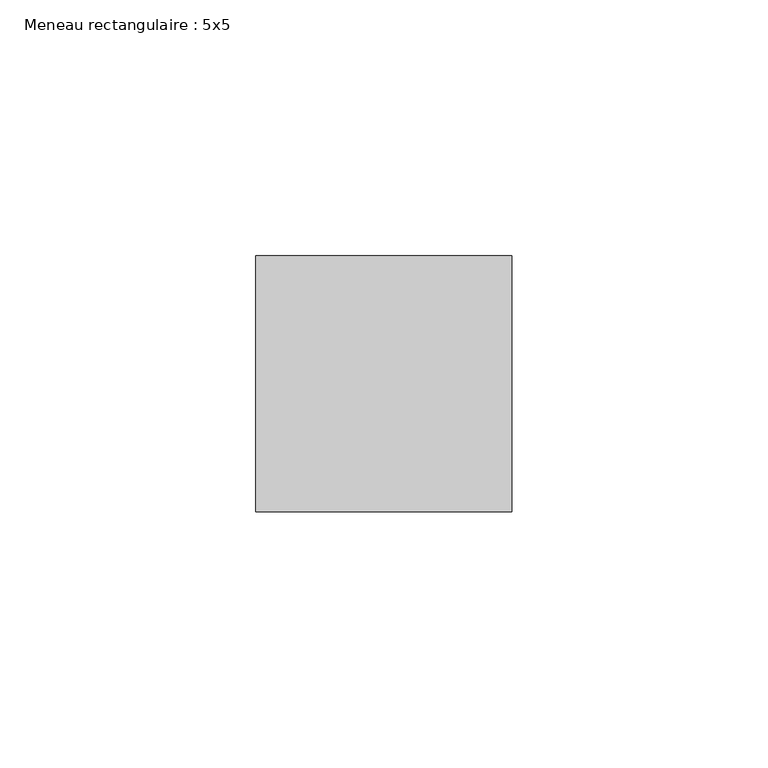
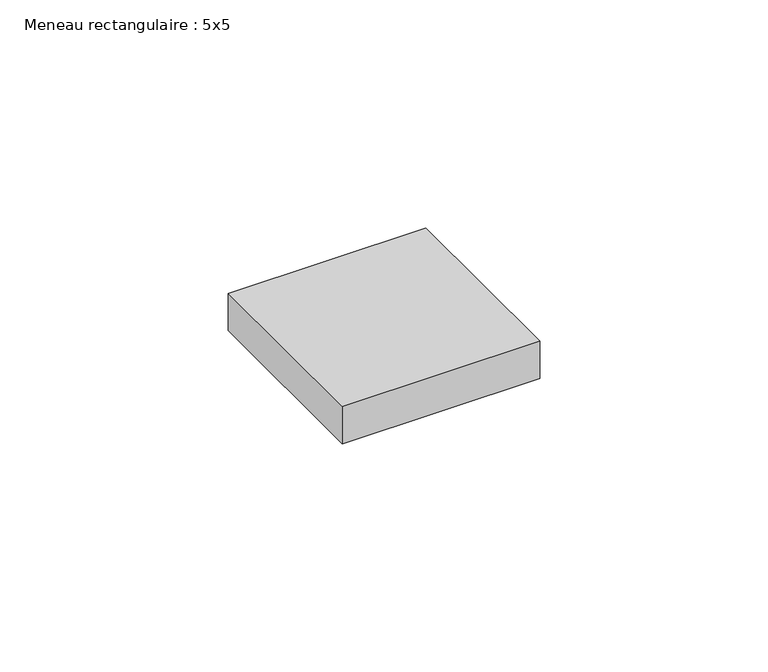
"""IFC4 building model written with IfcOpenShell, lengths in millimetres: member geometry, Meneau rectangulaire : 5x5."""

from ifc_helpers import new_model, si_unit, frame, origin, place, context, project, spatial, polyline, outline, extrude, source, transform, mapped, element, save


def meneau_rectangulaire_5x5_59bc1988(model_context):
    return source(origin(), model_context, "Body", "SweptSolid", [
        extrude(outline(polyline([(0.0, 25.0), (0.0, -25.0), (-50.0, -25.0), (-50.0, 25.0), (0.0, 25.0)])), frame((0.0, 0.0, -10.0), z_axis=(0.0, 0.0, 1.0), x_axis=(1.0, 0.0, 0.0)), (0.0, 0.0, 1.0), 10.0),
    ])


if __name__ == "__main__":
    model = new_model("IFC4")
    model_context = context("Model", 3, world=origin())
    ifc_project = project(units=[si_unit("LENGTHUNIT", "METRE", prefix="MILLI")], contexts=[model_context])
    site = spatial("IfcSite", under=ifc_project)
    building = spatial("IfcBuilding", under=site)
    placement = place(None, origin())
    meneau_rectangulaire_5x5_shape = meneau_rectangulaire_5x5_59bc1988(model_context)
    element("IfcMember", 1, ObjectType="Meneau rectangulaire : 5x5", at=placement, inside=building, context=model_context, shape_type="MappedRepresentation", body=[
        mapped(meneau_rectangulaire_5x5_shape, transform((0.0, 0.0, 0.0), x_axis=(1.0, 0.0, 0.0), y_axis=(0.0, 1.0, 0.0), z_axis=(0.0, 0.0, 1.0))),
    ])
    save(model, "model.ifc")
